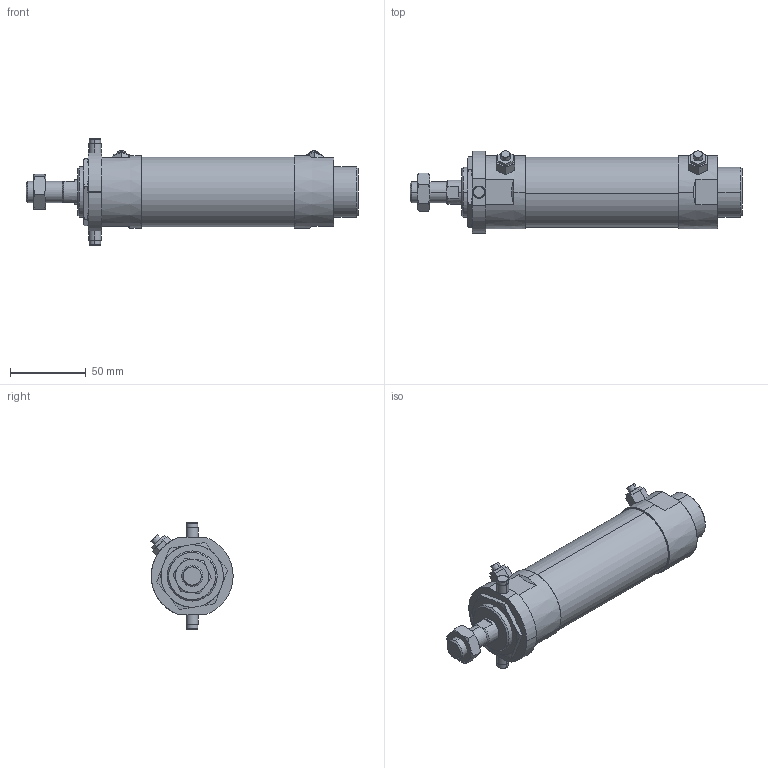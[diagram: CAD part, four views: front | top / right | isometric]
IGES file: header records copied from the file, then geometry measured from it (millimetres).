
Start section: SolidWorks IGES file using analytic representation for surfaces
Global section: file name: C:\Users\Toshiba\Desktop\JG2-40-50-T.IGS; native system: SolidWorks 2014; preprocessor: SolidWorks 2014; author: Toshiba; date: 160419.085331; units: millimetre
Bounding box: 219 x 54.22 x 70 mm (x, y, z)
Surface area: 48946.9 mm2 (no closed solid volume)
Topology: 0 solids, 0 shells, 157 faces, 2582 edges, 2578 vertices
Faces by surface type: bspline 95, revolution 62
